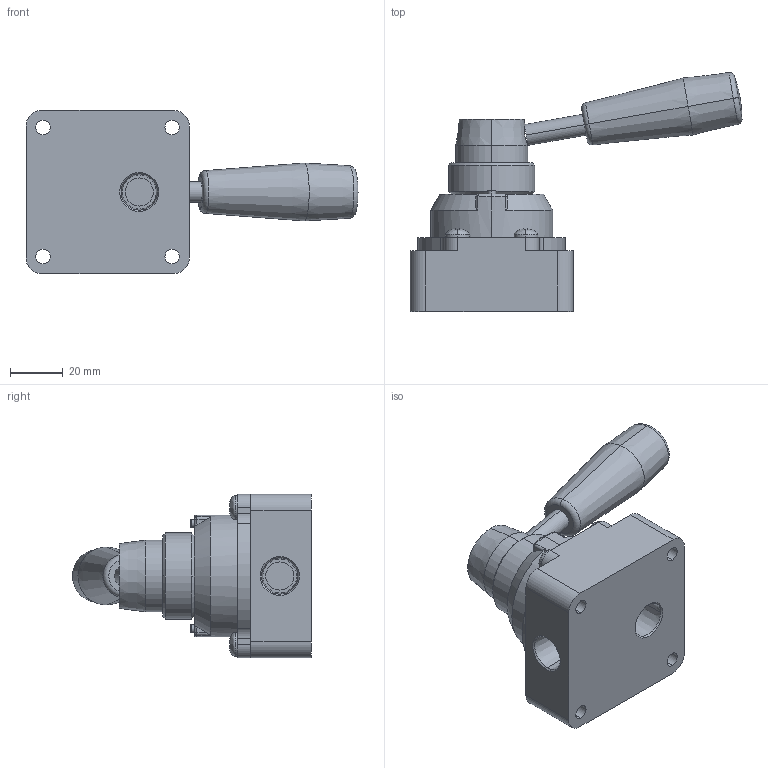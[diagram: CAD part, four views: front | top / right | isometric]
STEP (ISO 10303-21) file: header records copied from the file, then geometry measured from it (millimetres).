
FILE_DESCRIPTION (( 'STEP AP214' ), '1' );
FILE_NAME ('VH201-02.step.step', '2021-03-11T06:01:32', ( '' ), ( '' ), 'SwSTEP 2.0', 'SolidWorks 2020', '' );
FILE_SCHEMA (( 'AUTOMOTIVE_DESIGN' ));
Length unit declared in the file: millimetre
Products named in the file (3): VH201-02.step; VH201-02.step_VH BODY_200; VH201-02.step_VH LEVER_200
Assembly tree (2 placements, depth 2):
  VH201-02.step
    VH201-02.step_VH BODY_200
    VH201-02.step_VH LEVER_200
Bounding box: 126.06 x 90.72 x 62 mm (x, y, z)
Volume: 158790 mm3; surface area: 27012.3 mm2
Topology: 2 solids, 2 shells, 213 faces, 534 edges, 340 vertices
Faces by surface type: plane 84, cylinder 60, cone 44, torus 11, bspline 8, sphere 6
Entity records: 7757 total; most frequent: CARTESIAN_POINT 1646, ORIENTED_EDGE 1060, DIRECTION 1056, EDGE_CURVE 530, AXIS2_PLACEMENT_3D 410, VERTEX_POINT 340, EDGE_LOOP 240, LINE 236
